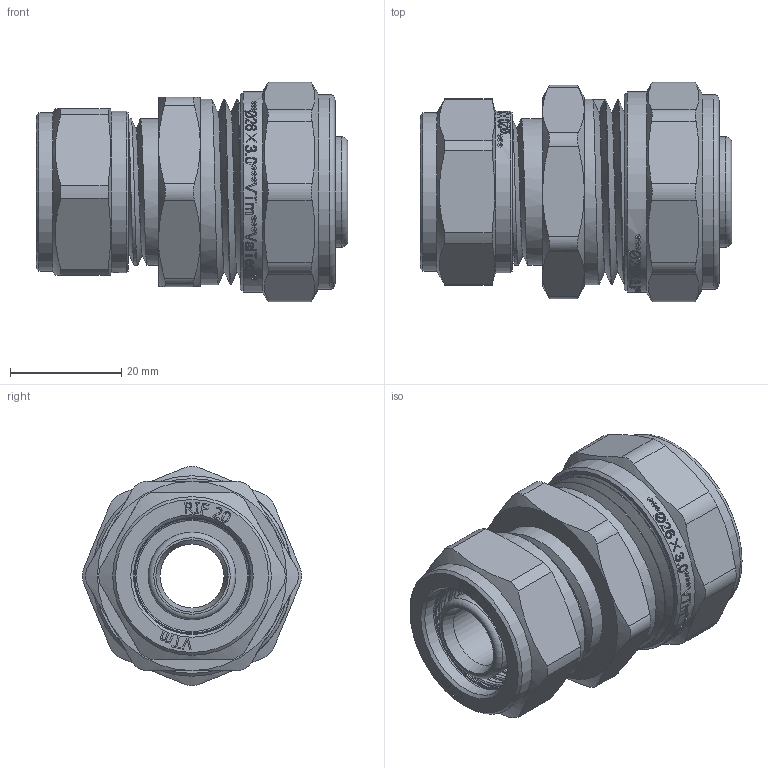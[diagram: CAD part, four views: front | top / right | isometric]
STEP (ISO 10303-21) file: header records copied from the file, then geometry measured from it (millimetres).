
FILE_DESCRIPTION(/* description */ (''),/* implementation_level */ '2;1');
FILE_NAME(/* name */ 'E:\Артём\00000\Работа удаленка\Обжимные фитинги\VTm.303.N.002620.stp',/* time_stamp */ '2020-06-10T15:41:36+03:00',/* author */ ('BeN_GaN'),/* organization */ (''),/* preprocessor_version */ 'ST-DEVELOPER v18',/* originating_system */ 'Autodesk Inventor 2020',/* authorisation */ '');
FILE_SCHEMA (('AUTOMOTIVE_DESIGN { 1 0 10303 214 3 1 1 }'));
Length unit declared in the file: millimetre
Products named in the file (1): VTm.303.N.002620
Bounding box: 55.98 x 39.39 x 39.39 mm (x, y, z)
Volume: 29907.3 mm3; surface area: 21076.2 mm2
Topology: 1 solids, 2 shells, 1278 faces, 3595 edges, 2429 vertices
Faces by surface type: bspline 714, plane 328, cylinder 150, torus 47, cone 39
Full cylindrical faces by diameter (mm): 11.5 x1, 13.4 x2, 15 x1, 15.75 x4, 17.4 x2, 19.8 x5, 19.986 x4, 20.2 x1, 20.728 x5, 21 x1, 22.8 x1, 23.201 x1, 24.2 x1, 24.516 x4, 25.435 x5, 26.2 x1, 26.4 x2, 26.7 x1, 28.5 x2, 28.7 x2, 29 x1, 30.5 x1, 33.3 x2, 35 x1, 36 x1
Entity records: 53524 total; most frequent: CARTESIAN_POINT 25036, ORIENTED_EDGE 7190, DIRECTION 3743, EDGE_CURVE 3595, VERTEX_POINT 2429, B_SPLINE_CURVE_WITH_KNOTS 1507, LINE 1459, VECTOR 1459
